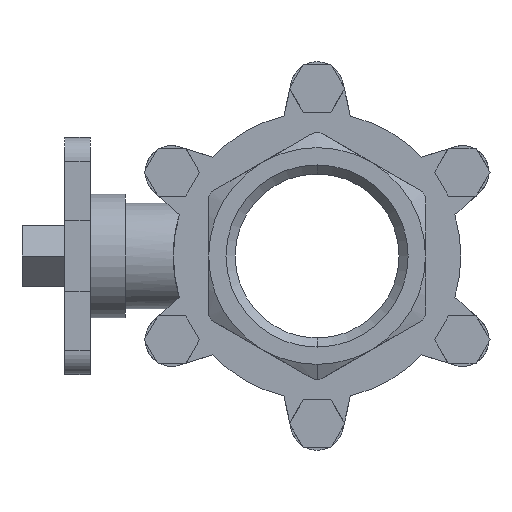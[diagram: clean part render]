
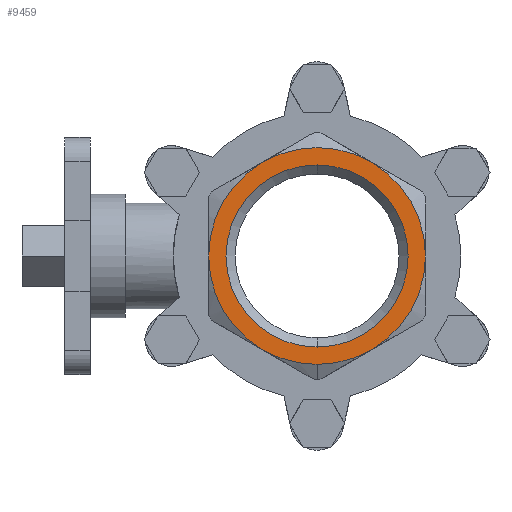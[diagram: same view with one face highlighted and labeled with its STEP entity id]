
A CAD part, left-side view. The second image highlights one B-rep face of the part: STEP entity #9459.
In plain terms, the highlighted planar face has unit normal (-1, 0, 0).
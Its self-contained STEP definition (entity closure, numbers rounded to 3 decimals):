
#42 = ORIENTED_EDGE ( 'NONE', *, *, #2910, .T. ) ;
#88 = CARTESIAN_POINT ( 'NONE',  ( -75.5, 0., 36.115 ) ) ;
#625 = ORIENTED_EDGE ( 'NONE', *, *, #7091, .T. ) ;
#901 = DIRECTION ( 'NONE',  ( -1., 0., 0. ) ) ;
#962 = AXIS2_PLACEMENT_3D ( 'NONE', #7081, #1941, #7937 ) ;
#1104 = EDGE_CURVE ( 'NONE', #8405, #4810, #2995, .T. ) ;
#1174 = CIRCLE ( 'NONE', #2338, 43. ) ;
#1214 = DIRECTION ( 'NONE',  ( -1., 0., 0. ) ) ;
#1399 = PLANE ( 'NONE',  #6852 ) ;
#1465 = CARTESIAN_POINT ( 'NONE',  ( -75.5, 0., 0. ) ) ;
#1636 = CARTESIAN_POINT ( 'NONE',  ( -75.5, 0., 0. ) ) ;
#1763 = CIRCLE ( 'NONE', #9927, 43. ) ;
#1797 = CARTESIAN_POINT ( 'NONE',  ( -75.5, -21.5, 37.239 ) ) ;
#1941 = DIRECTION ( 'NONE',  ( -1., 0., 0. ) ) ;
#2170 = AXIS2_PLACEMENT_3D ( 'NONE', #2484, #8434, #3345 ) ;
#2336 = VERTEX_POINT ( 'NONE', #6341 ) ;
#2337 = CARTESIAN_POINT ( 'NONE',  ( -75.5, 36.115, 0. ) ) ;
#2338 = AXIS2_PLACEMENT_3D ( 'NONE', #2602, #8548, #3450 ) ;
#2401 = DIRECTION ( 'NONE',  ( 0., 0., 1. ) ) ;
#2484 = CARTESIAN_POINT ( 'NONE',  ( -75.5, 0., 0. ) ) ;
#2574 = DIRECTION ( 'NONE',  ( 0., 0., 1. ) ) ;
#2602 = CARTESIAN_POINT ( 'NONE',  ( -75.5, 0., 0. ) ) ;
#2604 = CIRCLE ( 'NONE', #4995, 36.115 ) ;
#2910 = EDGE_CURVE ( 'NONE', #6541, #6938, #10579, .T. ) ;
#2995 = CIRCLE ( 'NONE', #4755, 43. ) ;
#3206 = DIRECTION ( 'NONE',  ( 1., 0., 0. ) ) ;
#3345 = DIRECTION ( 'NONE',  ( 0., 0., 1. ) ) ;
#3450 = DIRECTION ( 'NONE',  ( 0., 0., 1. ) ) ;
#3731 = VERTEX_POINT ( 'NONE', #6247 ) ;
#3921 = CARTESIAN_POINT ( 'NONE',  ( -75.5, 0., 0. ) ) ;
#4063 = AXIS2_PLACEMENT_3D ( 'NONE', #9275, #4131, #10220 ) ;
#4131 = DIRECTION ( 'NONE',  ( -1., 0., 0. ) ) ;
#4598 = CIRCLE ( 'NONE', #5208, 43. ) ;
#4755 = AXIS2_PLACEMENT_3D ( 'NONE', #1465, #7510, #2401 ) ;
#4795 = DIRECTION ( 'NONE',  ( 0., 0., 1. ) ) ;
#4810 = VERTEX_POINT ( 'NONE', #1797 ) ;
#4995 = AXIS2_PLACEMENT_3D ( 'NONE', #6127, #901, #6976 ) ;
#5208 = AXIS2_PLACEMENT_3D ( 'NONE', #6425, #1214, #7272 ) ;
#5283 = EDGE_LOOP ( 'NONE', ( #11222, #42, #9330, #625, #5575, #5840, #6108 ) ) ;
#5374 = CARTESIAN_POINT ( 'NONE',  ( -75.5, 43., 0. ) ) ;
#5492 = AXIS2_PLACEMENT_3D ( 'NONE', #1636, #7661, #2574 ) ;
#5575 = ORIENTED_EDGE ( 'NONE', *, *, #8372, .T. ) ;
#5617 = EDGE_CURVE ( 'NONE', #2336, #6541, #11405, .T. ) ;
#5840 = ORIENTED_EDGE ( 'NONE', *, *, #1104, .T. ) ;
#6108 = ORIENTED_EDGE ( 'NONE', *, *, #6839, .T. ) ;
#6127 = CARTESIAN_POINT ( 'NONE',  ( -75.5, 0., 0. ) ) ;
#6229 = ORIENTED_EDGE ( 'NONE', *, *, #10060, .F. ) ;
#6247 = CARTESIAN_POINT ( 'NONE',  ( -75.5, 0., -43. ) ) ;
#6341 = CARTESIAN_POINT ( 'NONE',  ( -75.5, 21.5, 37.239 ) ) ;
#6425 = CARTESIAN_POINT ( 'NONE',  ( -75.5, 0., 0. ) ) ;
#6492 = ORIENTED_EDGE ( 'NONE', *, *, #9204, .F. ) ;
#6541 = VERTEX_POINT ( 'NONE', #5374 ) ;
#6747 = CIRCLE ( 'NONE', #2170, 43. ) ;
#6839 = EDGE_CURVE ( 'NONE', #4810, #2336, #1763, .T. ) ;
#6852 = AXIS2_PLACEMENT_3D ( 'NONE', #2337, #3206, #9178 ) ;
#6938 = VERTEX_POINT ( 'NONE', #7431 ) ;
#6959 = VERTEX_POINT ( 'NONE', #9166 ) ;
#6976 = DIRECTION ( 'NONE',  ( 0., 0., 1. ) ) ;
#7046 = VERTEX_POINT ( 'NONE', #11126 ) ;
#7081 = CARTESIAN_POINT ( 'NONE',  ( -75.5, 0., 0. ) ) ;
#7091 = EDGE_CURVE ( 'NONE', #3731, #6959, #6747, .T. ) ;
#7272 = DIRECTION ( 'NONE',  ( 0., 0., 1. ) ) ;
#7431 = CARTESIAN_POINT ( 'NONE',  ( -75.5, 21.5, -37.239 ) ) ;
#7510 = DIRECTION ( 'NONE',  ( -1., 0., 0. ) ) ;
#7661 = DIRECTION ( 'NONE',  ( -1., 0., 0. ) ) ;
#7937 = DIRECTION ( 'NONE',  ( 0., 0., 1. ) ) ;
#8102 = VERTEX_POINT ( 'NONE', #88 ) ;
#8171 = FACE_BOUND ( 'NONE', #9802, .T. ) ;
#8372 = EDGE_CURVE ( 'NONE', #6959, #8405, #1174, .T. ) ;
#8405 = VERTEX_POINT ( 'NONE', #8580 ) ;
#8434 = DIRECTION ( 'NONE',  ( -1., 0., 0. ) ) ;
#8548 = DIRECTION ( 'NONE',  ( -1., 0., 0. ) ) ;
#8580 = CARTESIAN_POINT ( 'NONE',  ( -75.5, -43., 0. ) ) ;
#8712 = FACE_OUTER_BOUND ( 'NONE', #5283, .T. ) ;
#8798 = EDGE_CURVE ( 'NONE', #6938, #3731, #4598, .T. ) ;
#9166 = CARTESIAN_POINT ( 'NONE',  ( -75.5, -21.5, -37.239 ) ) ;
#9178 = DIRECTION ( 'NONE',  ( 0., 0., -1. ) ) ;
#9204 = EDGE_CURVE ( 'NONE', #7046, #8102, #2604, .T. ) ;
#9275 = CARTESIAN_POINT ( 'NONE',  ( -75.5, 0., 0. ) ) ;
#9330 = ORIENTED_EDGE ( 'NONE', *, *, #8798, .T. ) ;
#9459 = ADVANCED_FACE ( 'NONE', ( #8171, #8712 ), #1399, .F. ) ;
#9802 = EDGE_LOOP ( 'NONE', ( #6229, #6492 ) ) ;
#9913 = CIRCLE ( 'NONE', #4063, 36.115 ) ;
#9927 = AXIS2_PLACEMENT_3D ( 'NONE', #3921, #9984, #4795 ) ;
#9984 = DIRECTION ( 'NONE',  ( -1., 0., 0. ) ) ;
#10060 = EDGE_CURVE ( 'NONE', #8102, #7046, #9913, .T. ) ;
#10220 = DIRECTION ( 'NONE',  ( 0., 0., 1. ) ) ;
#10579 = CIRCLE ( 'NONE', #962, 43. ) ;
#11126 = CARTESIAN_POINT ( 'NONE',  ( -75.5, 0., -36.115 ) ) ;
#11222 = ORIENTED_EDGE ( 'NONE', *, *, #5617, .T. ) ;
#11405 = CIRCLE ( 'NONE', #5492, 43. ) ;
